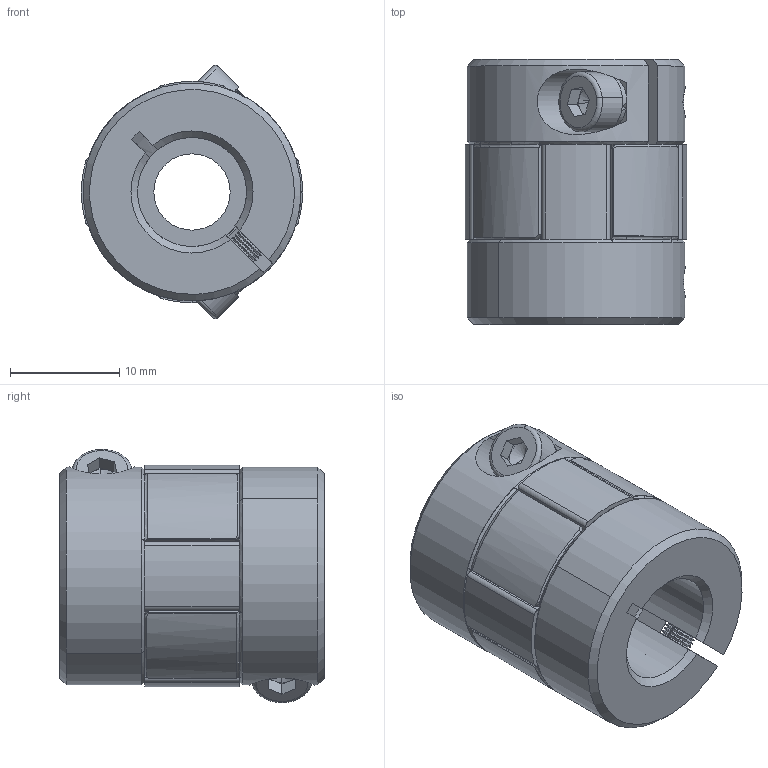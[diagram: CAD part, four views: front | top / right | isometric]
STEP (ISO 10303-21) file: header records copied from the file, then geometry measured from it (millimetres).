
FILE_DESCRIPTION (( 'STEP AP203' ), '1' );
FILE_NAME ('LF-B-D20L25-8-10.STEP', '2021-10-21T01:32:57', ( '' ), ( '' ), 'SwSTEP 2.0', 'SolidWorks 2018', '' );
FILE_SCHEMA (( 'CONFIG_CONTROL_DESIGN' ));
Length unit declared in the file: millimetre
Products named in the file (1): LF-B-D20L25-8-10
Bounding box: 20.31 x 24.3 x 23.23 mm (x, y, z)
Volume: 6072.5 mm3; surface area: 3605.4 mm2
Topology: 1 solids, 1 shells, 430 faces, 1078 edges, 640 vertices
Faces by surface type: cylinder 167, cone 158, plane 93, torus 12
Entity records: 13190 total; most frequent: CARTESIAN_POINT 2747, DIRECTION 2325, ORIENTED_EDGE 2148, EDGE_CURVE 1074, AXIS2_PLACEMENT_3D 956, VERTEX_POINT 640, CIRCLE 525, EDGE_LOOP 446
